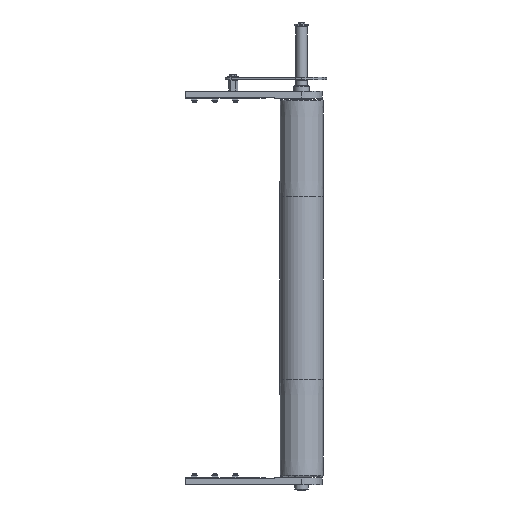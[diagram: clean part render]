
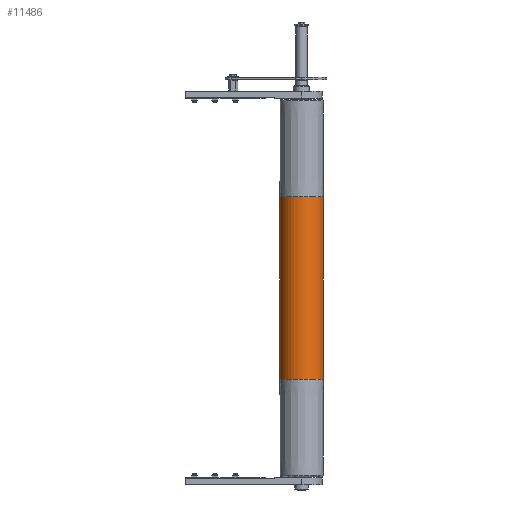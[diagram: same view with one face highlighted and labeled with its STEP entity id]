
A CAD part, front view. The second image highlights one B-rep face of the part: STEP entity #11486.
In plain terms, the highlighted cylindrical face has radius 47.5 mm (diameter 95 mm), a partial arc.
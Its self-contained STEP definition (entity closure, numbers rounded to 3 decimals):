
#776 = VERTEX_POINT ( 'NONE', #10980 ) ;
#1414 = CARTESIAN_POINT ( 'NONE',  ( 200., 0., -47.5 ) ) ;
#2541 = CARTESIAN_POINT ( 'NONE',  ( 410., 0., 0. ) ) ;
#2751 = CIRCLE ( 'NONE', #20758, 47.5 ) ;
#3210 = CARTESIAN_POINT ( 'NONE',  ( 410., 0., -47.5 ) ) ;
#4661 = AXIS2_PLACEMENT_3D ( 'NONE', #5470, #20536, #5390 ) ;
#4919 = AXIS2_PLACEMENT_3D ( 'NONE', #2541, #12043, #21305 ) ;
#5229 = VERTEX_POINT ( 'NONE', #1414 ) ;
#5390 = DIRECTION ( 'NONE',  ( 0., 0., -1. ) ) ;
#5470 = CARTESIAN_POINT ( 'NONE',  ( -200., 0., 0. ) ) ;
#6043 = EDGE_LOOP ( 'NONE', ( #12446, #6714, #9822, #6681 ) ) ;
#6681 = ORIENTED_EDGE ( 'NONE', *, *, #15155, .T. ) ;
#6714 = ORIENTED_EDGE ( 'NONE', *, *, #16501, .F. ) ;
#6796 = DIRECTION ( 'NONE',  ( -1., 0., 0. ) ) ;
#7115 = CARTESIAN_POINT ( 'NONE',  ( 410., 0., 47.5 ) ) ;
#7423 = EDGE_CURVE ( 'NONE', #5229, #8307, #21013, .T. ) ;
#8307 = VERTEX_POINT ( 'NONE', #15858 ) ;
#9822 = ORIENTED_EDGE ( 'NONE', *, *, #23942, .T. ) ;
#10330 = VERTEX_POINT ( 'NONE', #14102 ) ;
#10980 = CARTESIAN_POINT ( 'NONE',  ( 200., 0., 47.5 ) ) ;
#11122 = VECTOR ( 'NONE', #18511, 1000. ) ;
#11486 = ADVANCED_FACE ( 'NONE', ( #15422 ), #12248, .T. ) ;
#12043 = DIRECTION ( 'NONE',  ( -1., 0., 0. ) ) ;
#12248 = CYLINDRICAL_SURFACE ( 'NONE', #4919, 47.5 ) ;
#12446 = ORIENTED_EDGE ( 'NONE', *, *, #7423, .F. ) ;
#13428 = LINE ( 'NONE', #7115, #11122 ) ;
#14102 = CARTESIAN_POINT ( 'NONE',  ( -200., 0., 47.5 ) ) ;
#14624 = DIRECTION ( 'NONE',  ( 0., 0., -1. ) ) ;
#15155 = EDGE_CURVE ( 'NONE', #10330, #8307, #16512, .T. ) ;
#15422 = FACE_OUTER_BOUND ( 'NONE', #6043, .T. ) ;
#15858 = CARTESIAN_POINT ( 'NONE',  ( -200., 0., -47.5 ) ) ;
#16501 = EDGE_CURVE ( 'NONE', #776, #5229, #2751, .T. ) ;
#16512 = CIRCLE ( 'NONE', #4661, 47.5 ) ;
#16717 = CARTESIAN_POINT ( 'NONE',  ( 200., 0., 0. ) ) ;
#18405 = VECTOR ( 'NONE', #6796, 1000. ) ;
#18511 = DIRECTION ( 'NONE',  ( -1., 0., 0. ) ) ;
#20484 = DIRECTION ( 'NONE',  ( 1., 0., 0. ) ) ;
#20536 = DIRECTION ( 'NONE',  ( 1., 0., 0. ) ) ;
#20758 = AXIS2_PLACEMENT_3D ( 'NONE', #16717, #20484, #14624 ) ;
#21013 = LINE ( 'NONE', #3210, #18405 ) ;
#21305 = DIRECTION ( 'NONE',  ( 0., 0., 1. ) ) ;
#23942 = EDGE_CURVE ( 'NONE', #776, #10330, #13428, .T. ) ;
